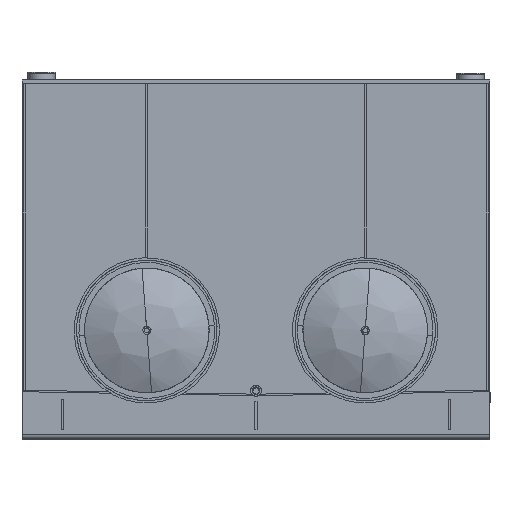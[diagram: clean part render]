
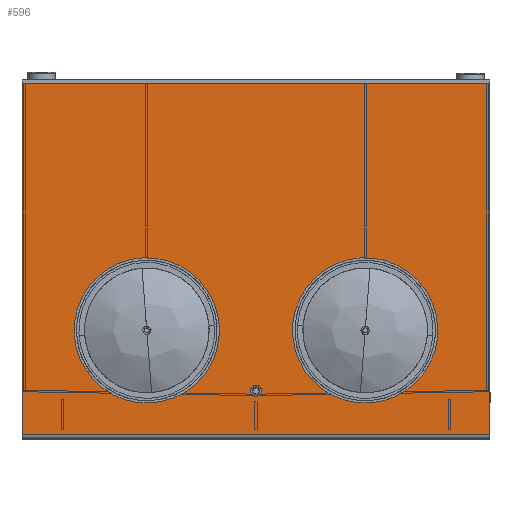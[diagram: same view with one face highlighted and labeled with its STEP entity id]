
A CAD part, top view. The second image highlights one B-rep face of the part: STEP entity #596.
In plain terms, the highlighted planar face has unit normal (0, 0, 1) as drawn and (-1, 0, 0) by its records, which use the part's own axes.
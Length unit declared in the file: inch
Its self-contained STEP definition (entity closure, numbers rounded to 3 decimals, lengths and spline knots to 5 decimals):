
#19 = DIRECTION ( 'NONE',  ( 0., -1., 0. ) ) ;
#77 = AXIS2_PLACEMENT_3D ( 'NONE', #1957, #3864, #3111 ) ;
#115 = VECTOR ( 'NONE', #1689, 39.37008 ) ;
#161 = ORIENTED_EDGE ( 'NONE', *, *, #5236, .F. ) ;
#201 = DIRECTION ( 'NONE',  ( 0., 0., -1. ) ) ;
#376 = EDGE_LOOP ( 'NONE', ( #508, #6946 ) ) ;
#508 = ORIENTED_EDGE ( 'NONE', *, *, #4827, .F. ) ;
#546 = ORIENTED_EDGE ( 'NONE', *, *, #6972, .F. ) ;
#596 = ADVANCED_FACE ( 'NONE', ( #3574, #3069, #624, #7570 ), #4350, .F. ) ;
#607 = LINE ( 'NONE', #2521, #3350 ) ;
#618 = VECTOR ( 'NONE', #19, 39.37008 ) ;
#624 = FACE_BOUND ( 'NONE', #1065, .T. ) ;
#636 = DIRECTION ( 'NONE',  ( 0., 0., 1. ) ) ;
#693 = AXIS2_PLACEMENT_3D ( 'NONE', #4741, #6623, #973 ) ;
#697 = EDGE_LOOP ( 'NONE', ( #2786, #3180, #161, #3657 ) ) ;
#824 = VERTEX_POINT ( 'NONE', #5307 ) ;
#973 = DIRECTION ( 'NONE',  ( 0., 0., 1. ) ) ;
#982 = DIRECTION ( 'NONE',  ( 0., -1., 0. ) ) ;
#1065 = EDGE_LOOP ( 'NONE', ( #546, #7674 ) ) ;
#1127 = AXIS2_PLACEMENT_3D ( 'NONE', #2626, #2589, #636 ) ;
#1156 = CARTESIAN_POINT ( 'NONE',  ( -0.375, 45.12, 60. ) ) ;
#1160 = EDGE_CURVE ( 'NONE', #7049, #7502, #3649, .T. ) ;
#1175 = CIRCLE ( 'NONE', #5386, 8. ) ;
#1355 = DIRECTION ( 'NONE',  ( -1., 0., 0. ) ) ;
#1461 = VECTOR ( 'NONE', #982, 39.37008 ) ;
#1569 = EDGE_CURVE ( 'NONE', #4212, #3482, #1175, .T. ) ;
#1610 = LINE ( 'NONE', #4126, #1461 ) ;
#1667 = DIRECTION ( 'NONE',  ( -1., 0., 0. ) ) ;
#1686 = VERTEX_POINT ( 'NONE', #4300 ) ;
#1689 = DIRECTION ( 'NONE',  ( 0., 0., -1. ) ) ;
#1728 = CARTESIAN_POINT ( 'NONE',  ( -0.375, 13.5, 36. ) ) ;
#1730 = LINE ( 'NONE', #4996, #115 ) ;
#1861 = LINE ( 'NONE', #4378, #618 ) ;
#1894 = CARTESIAN_POINT ( 'NONE',  ( -0.375, 13.5, 44. ) ) ;
#1957 = CARTESIAN_POINT ( 'NONE',  ( -0.375, 0., 60. ) ) ;
#2046 = AXIS2_PLACEMENT_3D ( 'NONE', #4806, #1667, #4181 ) ;
#2487 = AXIS2_PLACEMENT_3D ( 'NONE', #1894, #1355, #4536 ) ;
#2503 = CARTESIAN_POINT ( 'NONE',  ( -0.375, 13.5, 52. ) ) ;
#2521 = CARTESIAN_POINT ( 'NONE',  ( -0.375, 0.125, 60. ) ) ;
#2589 = DIRECTION ( 'NONE',  ( -1., 0., 0. ) ) ;
#2626 = CARTESIAN_POINT ( 'NONE',  ( -0.375, 5.75, 30. ) ) ;
#2704 = CARTESIAN_POINT ( 'NONE',  ( -0.375, 5.75, 29.28 ) ) ;
#2749 = ORIENTED_EDGE ( 'NONE', *, *, #1160, .F. ) ;
#2786 = ORIENTED_EDGE ( 'NONE', *, *, #8020, .T. ) ;
#2813 = DIRECTION ( 'NONE',  ( -1., 0., 0. ) ) ;
#2887 = ORIENTED_EDGE ( 'NONE', *, *, #6191, .F. ) ;
#2902 = AXIS2_PLACEMENT_3D ( 'NONE', #6568, #2813, #3487 ) ;
#2921 = EDGE_CURVE ( 'NONE', #2939, #5649, #6621, .T. ) ;
#2939 = VERTEX_POINT ( 'NONE', #6794 ) ;
#2945 = DIRECTION ( 'NONE',  ( 0., 0., 1. ) ) ;
#3069 = FACE_BOUND ( 'NONE', #376, .T. ) ;
#3111 = DIRECTION ( 'NONE',  ( 0., 0., -1. ) ) ;
#3158 = CARTESIAN_POINT ( 'NONE',  ( -0.375, 5.75, 30.72 ) ) ;
#3180 = ORIENTED_EDGE ( 'NONE', *, *, #4036, .F. ) ;
#3318 = CARTESIAN_POINT ( 'NONE',  ( -0.375, 45.12, 0. ) ) ;
#3350 = VECTOR ( 'NONE', #201, 39.37008 ) ;
#3482 = VERTEX_POINT ( 'NONE', #2503 ) ;
#3487 = DIRECTION ( 'NONE',  ( 0., 0., 1. ) ) ;
#3574 = FACE_BOUND ( 'NONE', #3900, .T. ) ;
#3626 = VERTEX_POINT ( 'NONE', #3318 ) ;
#3649 = CIRCLE ( 'NONE', #1127, 0.72 ) ;
#3657 = ORIENTED_EDGE ( 'NONE', *, *, #6808, .T. ) ;
#3864 = DIRECTION ( 'NONE',  ( 1., 0., 0. ) ) ;
#3900 = EDGE_LOOP ( 'NONE', ( #2887, #2749 ) ) ;
#4036 = EDGE_CURVE ( 'NONE', #824, #1686, #607, .T. ) ;
#4126 = CARTESIAN_POINT ( 'NONE',  ( -0.375, 0., 60. ) ) ;
#4181 = DIRECTION ( 'NONE',  ( 0., 0., 1. ) ) ;
#4212 = VERTEX_POINT ( 'NONE', #1728 ) ;
#4300 = CARTESIAN_POINT ( 'NONE',  ( -0.375, 0.125, 0. ) ) ;
#4350 = PLANE ( 'NONE',  #77 ) ;
#4378 = CARTESIAN_POINT ( 'NONE',  ( -0.375, 0., 0. ) ) ;
#4536 = DIRECTION ( 'NONE',  ( 0., 0., 1. ) ) ;
#4741 = CARTESIAN_POINT ( 'NONE',  ( -0.375, 13.5, 16. ) ) ;
#4806 = CARTESIAN_POINT ( 'NONE',  ( -0.375, 13.5, 16. ) ) ;
#4827 = EDGE_CURVE ( 'NONE', #5649, #2939, #5604, .T. ) ;
#4856 = DIRECTION ( 'NONE',  ( -1., 0., 0. ) ) ;
#4996 = CARTESIAN_POINT ( 'NONE',  ( -0.375, 45.12, 60. ) ) ;
#5236 = EDGE_CURVE ( 'NONE', #7729, #824, #1610, .T. ) ;
#5307 = CARTESIAN_POINT ( 'NONE',  ( -0.375, 0.125, 60. ) ) ;
#5386 = AXIS2_PLACEMENT_3D ( 'NONE', #6736, #4856, #2945 ) ;
#5403 = CIRCLE ( 'NONE', #2902, 0.72 ) ;
#5604 = CIRCLE ( 'NONE', #2046, 8. ) ;
#5649 = VERTEX_POINT ( 'NONE', #7294 ) ;
#6029 = CIRCLE ( 'NONE', #2487, 8. ) ;
#6191 = EDGE_CURVE ( 'NONE', #7502, #7049, #5403, .T. ) ;
#6568 = CARTESIAN_POINT ( 'NONE',  ( -0.375, 5.75, 30. ) ) ;
#6621 = CIRCLE ( 'NONE', #693, 8. ) ;
#6623 = DIRECTION ( 'NONE',  ( -1., 0., 0. ) ) ;
#6736 = CARTESIAN_POINT ( 'NONE',  ( -0.375, 13.5, 44. ) ) ;
#6794 = CARTESIAN_POINT ( 'NONE',  ( -0.375, 13.5, 8. ) ) ;
#6808 = EDGE_CURVE ( 'NONE', #7729, #3626, #1730, .T. ) ;
#6946 = ORIENTED_EDGE ( 'NONE', *, *, #2921, .F. ) ;
#6972 = EDGE_CURVE ( 'NONE', #3482, #4212, #6029, .T. ) ;
#7049 = VERTEX_POINT ( 'NONE', #2704 ) ;
#7294 = CARTESIAN_POINT ( 'NONE',  ( -0.375, 13.5, 24. ) ) ;
#7502 = VERTEX_POINT ( 'NONE', #3158 ) ;
#7570 = FACE_OUTER_BOUND ( 'NONE', #697, .T. ) ;
#7674 = ORIENTED_EDGE ( 'NONE', *, *, #1569, .F. ) ;
#7729 = VERTEX_POINT ( 'NONE', #1156 ) ;
#8020 = EDGE_CURVE ( 'NONE', #3626, #1686, #1861, .T. ) ;
